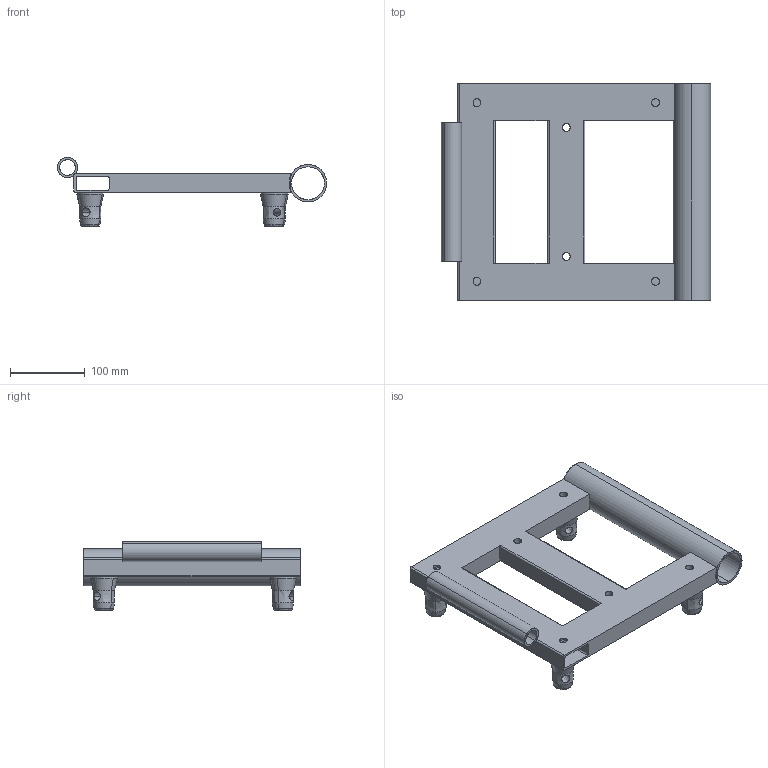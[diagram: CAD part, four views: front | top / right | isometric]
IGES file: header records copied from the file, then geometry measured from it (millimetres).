
Start section: SolidWorks IGES file using analytic representation for surfaces
Global section: file name: K:\BIBLIO\asd_biblio\Accessoires\ANGV259\ANGV259-001.IGS; native system: SolidWorks 2009; preprocessor: SolidWorks 2009; author: des3; date: 091026.135151; units: millimetre
Bounding box: 359.99 x 290 x 92.51 mm (x, y, z)
Surface area: 318736 mm2 (no closed solid volume)
Topology: 0 solids, 0 shells, 114 faces, 2464 edges, 2464 vertices
Faces by surface type: revolution 76, bspline 38
